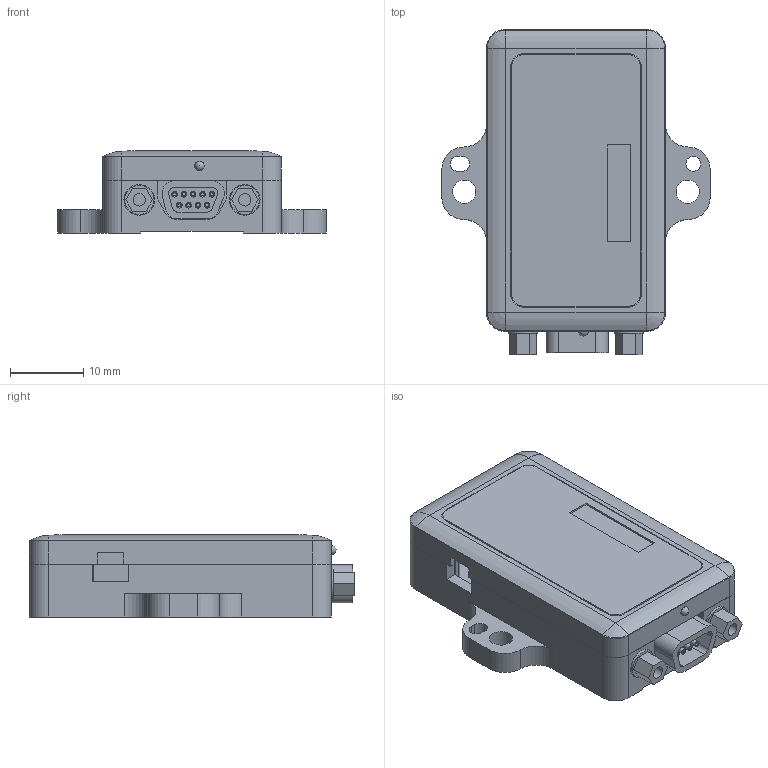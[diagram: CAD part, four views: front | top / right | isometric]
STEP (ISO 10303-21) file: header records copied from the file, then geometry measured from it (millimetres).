
FILE_DESCRIPTION(/* description */ ('','CAx-IF Rec.Pracs.---Representation and Presentation of Product Manufacturing Information (PMI)---3.8---2014-02-18'),/* implementation_level */ '2;1');
FILE_NAME(/* name */ 'Z:\Drawings\Projects\3065\3065-0222\3DM-GX5-45.stp',/* time_stamp */ '2018-09-24T14:49:41-04:00',/* author */ ('chad_thelen'),/* organization */ (''),/* preprocessor_version */ 'ST-DEVELOPER v16.5',/* originating_system */ 'Autodesk Inventor 2017',/* authorisation */ '');
FILE_SCHEMA (('AP242_MANAGED_MODEL_BASED_3D_ENGINEERING_MIM_LF { 1 0 10303 442 1 1 4 }'));
Length unit declared in the file: inch
Products named in the file (9): 3DM-GX5-45; 3065-0129; 3065-0130; 3065-0149; 9100-0146; 3065-0212; jackpost; 9008-0227; 9100-0216
Assembly tree (14 placements, depth 2):
  3DM-GX5-45
    3065-0129
    3065-0130
    3065-0149
    9100-0146  x4
    9100-0216  x3
    3065-0212
    jackpost  x2
    9008-0227
Bounding box: 36.58 x 44.3 x 11.18 mm (x, y, z)
Volume: 4749.5 mm3; surface area: 9517.2 mm2
Topology: 23 solids, 26 shells, 872 faces, 2723 edges, 1932 vertices
Faces by surface type: cylinder 456, plane 273, bspline 69, cone 67, torus 6, sphere 1
Full cylindrical faces by diameter (mm): 0.457 x18, 0.762 x18, 1.194 x4, 1.27 x1, 1.3 x5, 1.524 x104, 1.702 x6, 2.019 x1, 2.184 x2, 2.261 x2, 2.6 x3, 2.946 x2, 3.175 x4, 3.988 x2, 4.191 x2
Entity records: 20709 total; most frequent: CARTESIAN_POINT 8461, ORIENTED_EDGE 2518, DIRECTION 2355, EDGE_CURVE 1259, VERTEX_POINT 934, AXIS2_PLACEMENT_3D 905, EDGE_LOOP 629, LINE 545
